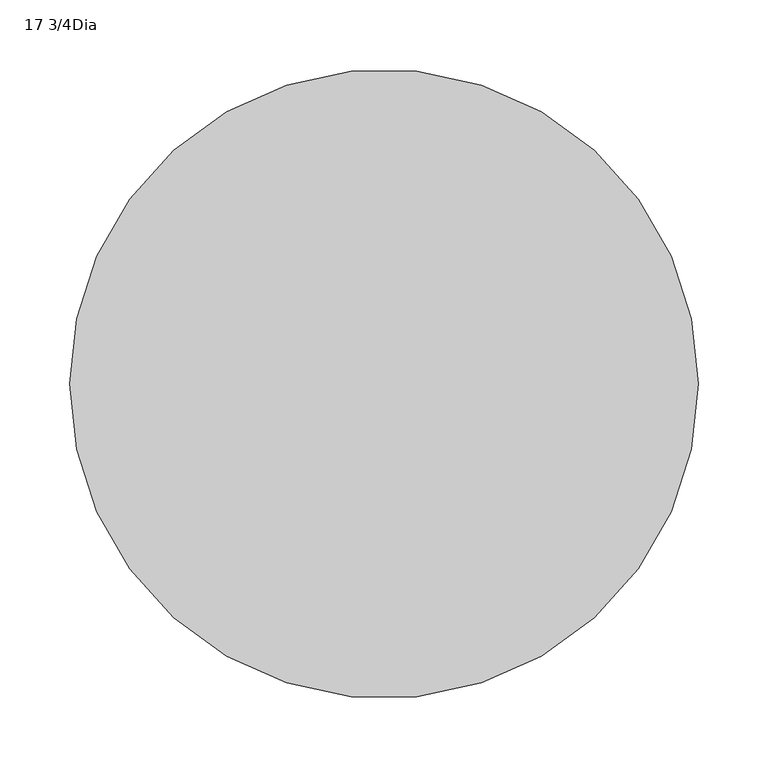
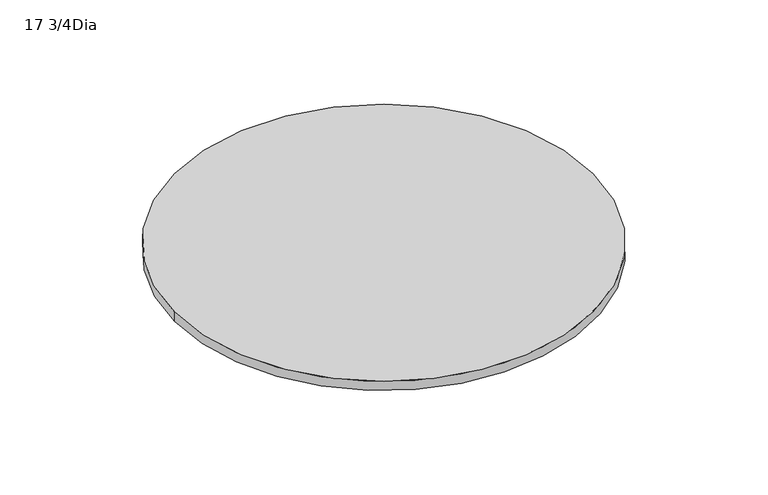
"""IFC4 building model written with IfcOpenShell, lengths in millimetres: furniture geometry, EMU_Table_Outdoor_Heaven_Pouf_GlassTop : 17 3/4Dia."""

from ifc_helpers import new_model, si_unit, point, frame, frame_2d, origin, place, context, project, spatial, circle_curve, trimmed, segment, composite_curve, outline, extrude, source, transform, mapped, element, save


def furniture_17_3_4dia_a371264b(model_context):
    return source(origin(), model_context, "Body", "SweptSolid", [
        extrude(outline(composite_curve([segment(trimmed(circle_curve(frame_2d((604.5683304, -398.2983219)), 225.425), [point((379.1433304, -398.2983219))], [point((829.9933304, -398.2983219))], False, "CARTESIAN"), True, "CONTINUOUS"), segment(trimmed(circle_curve(frame_2d((604.5683304, -398.2983219)), 225.425), [point((829.9933304, -398.2983219))], [point((379.1433304, -398.2983219))], False, "CARTESIAN"), True, "CONTINUOUS")], self_intersect=False)), frame((0.0, 0.0, 740.8140112), z_axis=(0.0, 0.0, 1.0), x_axis=(1.0, 0.0, 0.0)), (0.0, 0.0, 1.0), 10.2668879),
    ])


if __name__ == "__main__":
    model = new_model("IFC4")
    model_context = context("Model", 3, world=origin())
    ifc_project = project(units=[si_unit("LENGTHUNIT", "METRE", prefix="MILLI")], contexts=[model_context])
    site = spatial("IfcSite", under=ifc_project)
    building = spatial("IfcBuilding", under=site)
    placement = place(None, origin())
    furniture_17_3_4dia_shape = furniture_17_3_4dia_a371264b(model_context)
    element("IfcFurniture", 1, ObjectType="EMU_Table_Outdoor_Heaven_Pouf_GlassTop : 17 3/4Dia", at=placement, inside=building, context=model_context, shape_type="MappedRepresentation", body=[
        mapped(furniture_17_3_4dia_shape, transform((0.0, 0.0, 0.0), x_axis=(1.0, 0.0, 0.0), y_axis=(0.0, 1.0, 0.0), z_axis=(0.0, 0.0, 1.0))),
    ])
    save(model, "model.ifc")
